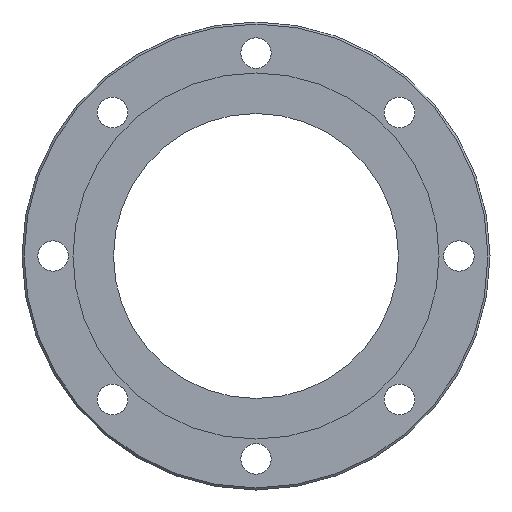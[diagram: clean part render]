
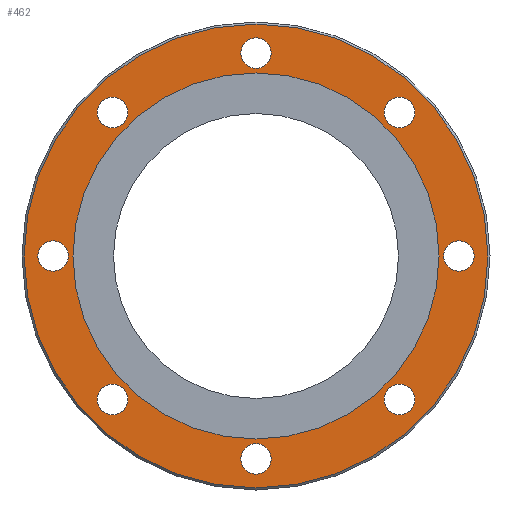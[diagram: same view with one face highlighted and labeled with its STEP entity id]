
A CAD part, left-side view. The second image highlights one B-rep face of the part: STEP entity #462.
In plain terms, the highlighted planar face has unit normal (-1, 0, 0).
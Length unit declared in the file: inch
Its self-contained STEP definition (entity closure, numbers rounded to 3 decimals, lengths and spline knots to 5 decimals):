
#15=FACE_BOUND('',#83,.T.);
#16=FACE_BOUND('',#84,.T.);
#17=FACE_BOUND('',#85,.T.);
#18=FACE_BOUND('',#86,.T.);
#19=FACE_BOUND('',#87,.T.);
#20=FACE_BOUND('',#88,.T.);
#21=FACE_BOUND('',#89,.T.);
#22=FACE_BOUND('',#90,.T.);
#23=FACE_BOUND('',#91,.T.);
#37=PLANE('',#510);
#59=FACE_OUTER_BOUND('',#82,.T.);
#82=EDGE_LOOP('',(#321));
#83=EDGE_LOOP('',(#322,#323));
#84=EDGE_LOOP('',(#324));
#85=EDGE_LOOP('',(#325));
#86=EDGE_LOOP('',(#326));
#87=EDGE_LOOP('',(#327));
#88=EDGE_LOOP('',(#328));
#89=EDGE_LOOP('',(#329));
#90=EDGE_LOOP('',(#330));
#91=EDGE_LOOP('',(#331));
#157=CIRCLE('',#504,6.6325);
#162=CIRCLE('',#511,5.236);
#163=CIRCLE('',#512,5.236);
#164=CIRCLE('',#513,0.435);
#165=CIRCLE('',#514,0.435);
#166=CIRCLE('',#515,0.435);
#167=CIRCLE('',#516,0.435);
#168=CIRCLE('',#517,0.435);
#169=CIRCLE('',#518,0.435);
#170=CIRCLE('',#519,0.435);
#171=CIRCLE('',#520,0.435);
#203=VERTEX_POINT('',#730);
#208=VERTEX_POINT('',#744);
#209=VERTEX_POINT('',#745);
#210=VERTEX_POINT('',#748);
#211=VERTEX_POINT('',#750);
#212=VERTEX_POINT('',#752);
#213=VERTEX_POINT('',#754);
#214=VERTEX_POINT('',#756);
#215=VERTEX_POINT('',#758);
#216=VERTEX_POINT('',#760);
#217=VERTEX_POINT('',#762);
#248=EDGE_CURVE('',#203,#203,#157,.T.);
#255=EDGE_CURVE('',#208,#209,#162,.T.);
#256=EDGE_CURVE('',#209,#208,#163,.T.);
#257=EDGE_CURVE('',#210,#210,#164,.T.);
#258=EDGE_CURVE('',#211,#211,#165,.T.);
#259=EDGE_CURVE('',#212,#212,#166,.T.);
#260=EDGE_CURVE('',#213,#213,#167,.T.);
#261=EDGE_CURVE('',#214,#214,#168,.T.);
#262=EDGE_CURVE('',#215,#215,#169,.T.);
#263=EDGE_CURVE('',#216,#216,#170,.T.);
#264=EDGE_CURVE('',#217,#217,#171,.T.);
#321=ORIENTED_EDGE('',*,*,#248,.F.);
#322=ORIENTED_EDGE('',*,*,#255,.F.);
#323=ORIENTED_EDGE('',*,*,#256,.F.);
#324=ORIENTED_EDGE('',*,*,#257,.T.);
#325=ORIENTED_EDGE('',*,*,#258,.T.);
#326=ORIENTED_EDGE('',*,*,#259,.T.);
#327=ORIENTED_EDGE('',*,*,#260,.T.);
#328=ORIENTED_EDGE('',*,*,#261,.T.);
#329=ORIENTED_EDGE('',*,*,#262,.T.);
#330=ORIENTED_EDGE('',*,*,#263,.T.);
#331=ORIENTED_EDGE('',*,*,#264,.T.);
#462=ADVANCED_FACE('',(#59,#15,#16,#17,#18,#19,#20,#21,#22,#23),#37,.T.);
#504=AXIS2_PLACEMENT_3D('',#731,#576,#577);
#510=AXIS2_PLACEMENT_3D('',#743,#590,#591);
#511=AXIS2_PLACEMENT_3D('',#746,#592,#593);
#512=AXIS2_PLACEMENT_3D('',#747,#594,#595);
#513=AXIS2_PLACEMENT_3D('',#749,#596,#597);
#514=AXIS2_PLACEMENT_3D('',#751,#598,#599);
#515=AXIS2_PLACEMENT_3D('',#753,#600,#601);
#516=AXIS2_PLACEMENT_3D('',#755,#602,#603);
#517=AXIS2_PLACEMENT_3D('',#757,#604,#605);
#518=AXIS2_PLACEMENT_3D('',#759,#606,#607);
#519=AXIS2_PLACEMENT_3D('',#761,#608,#609);
#520=AXIS2_PLACEMENT_3D('',#763,#610,#611);
#576=DIRECTION('center_axis',(1.,0.,0.));
#577=DIRECTION('ref_axis',(0.,-1.,0.));
#590=DIRECTION('center_axis',(-1.,0.,0.));
#591=DIRECTION('ref_axis',(0.,0.,1.));
#592=DIRECTION('center_axis',(-1.,0.,0.));
#593=DIRECTION('ref_axis',(0.,0.,1.));
#594=DIRECTION('center_axis',(-1.,0.,0.));
#595=DIRECTION('ref_axis',(0.,0.,1.));
#596=DIRECTION('center_axis',(1.,0.,0.));
#597=DIRECTION('ref_axis',(0.,0.,-1.));
#598=DIRECTION('center_axis',(1.,0.,0.));
#599=DIRECTION('ref_axis',(0.,-0.707,-0.707));
#600=DIRECTION('center_axis',(1.,0.,0.));
#601=DIRECTION('ref_axis',(0.,-1.,0.));
#602=DIRECTION('center_axis',(1.,0.,0.));
#603=DIRECTION('ref_axis',(0.,-0.707,0.707));
#604=DIRECTION('center_axis',(1.,0.,0.));
#605=DIRECTION('ref_axis',(0.,0.,
1.));
#606=DIRECTION('center_axis',(1.,0.,0.));
#607=DIRECTION('ref_axis',(0.,0.707,0.707));
#608=DIRECTION('center_axis',(1.,0.,0.));
#609=DIRECTION('ref_axis',(0.,1.,0.));
#610=DIRECTION('center_axis',(1.,0.,0.));
#611=DIRECTION('ref_axis',(0.,0.707,-0.707));
#730=CARTESIAN_POINT('',(-3.032,6.6325,0.));
#731=CARTESIAN_POINT('Origin',(-3.032,0.,0.));
#743=CARTESIAN_POINT('Origin',(-3.032,5.236,0.));
#744=CARTESIAN_POINT('',(-3.032,5.236,0.));
#745=CARTESIAN_POINT('',(-3.032,-5.236,0.));
#746=CARTESIAN_POINT('Origin',(-3.032,0.,0.));
#747=CARTESIAN_POINT('Origin',(-3.032,0.,0.));
#748=CARTESIAN_POINT('',(-3.032,0.,6.24));
#749=CARTESIAN_POINT('Origin',(-3.032,0.,5.805));
#750=CARTESIAN_POINT('',(-3.032,4.41235,4.41235));
#751=CARTESIAN_POINT('Origin',(-3.032,4.10475,4.10475));
#752=CARTESIAN_POINT('',(-3.032,6.24,0.));
#753=CARTESIAN_POINT('Origin',(-3.032,5.805,0.));
#754=CARTESIAN_POINT('',(-3.032,4.41235,-4.41235));
#755=CARTESIAN_POINT('Origin',(-3.032,4.10475,-4.10475));
#756=CARTESIAN_POINT('',(-3.032,0.,-6.24));
#757=CARTESIAN_POINT('Origin',(-3.032,0.,-5.805));
#758=CARTESIAN_POINT('',(-3.032,-4.41235,-4.41235));
#759=CARTESIAN_POINT('Origin',(-3.032,-4.10475,-4.10475));
#760=CARTESIAN_POINT('',(-3.032,-6.24,0.));
#761=CARTESIAN_POINT('Origin',(-3.032,-5.805,0.));
#762=CARTESIAN_POINT('',(-3.032,-4.41235,4.41235));
#763=CARTESIAN_POINT('Origin',(-3.032,-4.10475,4.10475));
